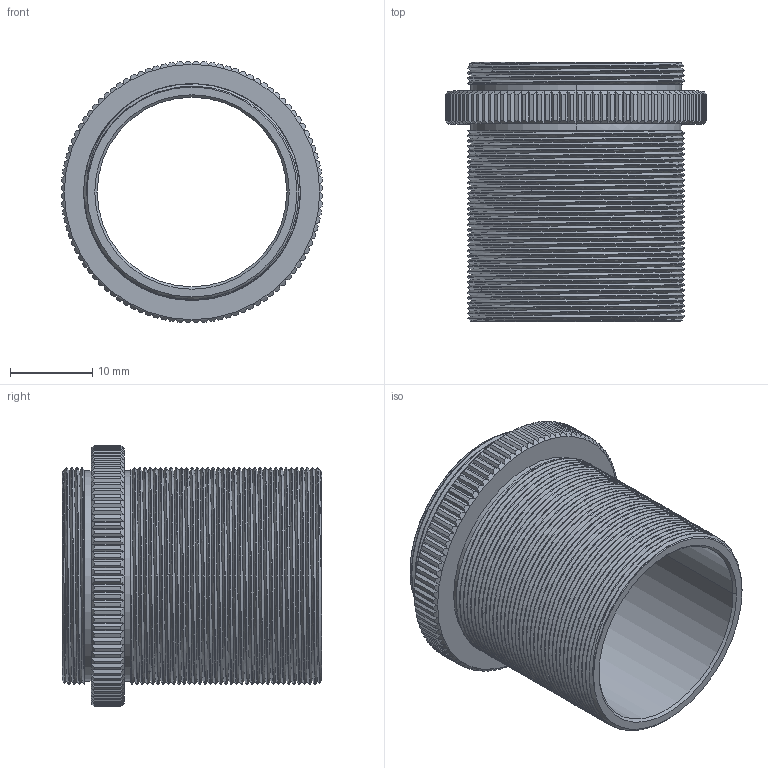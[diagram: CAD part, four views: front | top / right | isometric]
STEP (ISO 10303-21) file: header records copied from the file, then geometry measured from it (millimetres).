
FILE_DESCRIPTION((''),'2;1');
FILE_NAME('CSM1-124','2021-12-20T',('Administrator'),(''),'CREO PARAMETRIC BY PTC INC, 2015290','CREO PARAMETRIC BY PTC INC, 2015290','');
FILE_SCHEMA(('CONFIG_CONTROL_DESIGN'));
Length unit declared in the file: millimetre
Products named in the file (1): CSM1-124
Bounding box: 31.79 x 31.5 x 31.79 mm (x, y, z)
Volume: 4540.8 mm3; surface area: 6993.8 mm2
Topology: 1 solids, 1 shells, 427 faces, 1245 edges, 824 vertices
Faces by surface type: plane 206, cylinder 184, bspline 25, cone 12
Entity records: 25987 total; most frequent: CARTESIAN_POINT 15697, ORIENTED_EDGE 2490, DIRECTION 1675, EDGE_CURVE 1245, VERTEX_POINT 824, AXIS2_PLACEMENT_3D 630, B_SPLINE_CURVE_WITH_KNOTS 602, EDGE_LOOP 433
